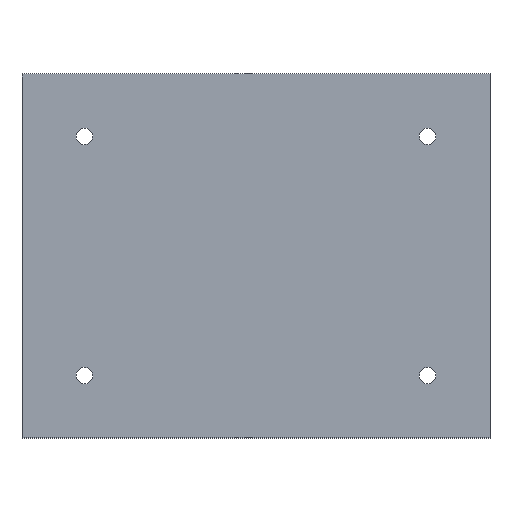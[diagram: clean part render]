
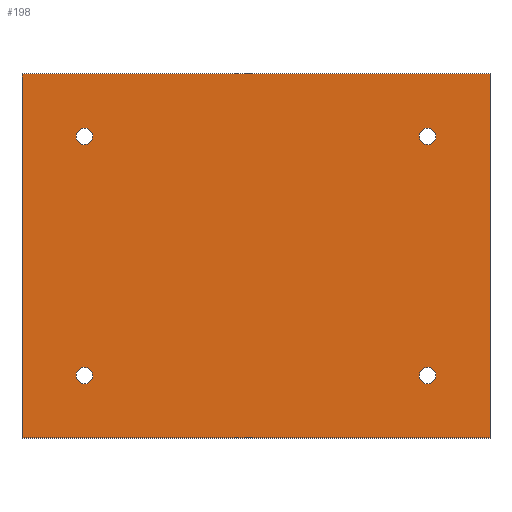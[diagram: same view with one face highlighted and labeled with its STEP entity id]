
A CAD part, top view. The second image highlights one B-rep face of the part: STEP entity #198.
In plain terms, the highlighted planar face has unit normal (0, 0, 1).
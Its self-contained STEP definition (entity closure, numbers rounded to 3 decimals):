
#42 = VERTEX_POINT('',#43);
#43 = CARTESIAN_POINT('',(90.,-70.,1.51));
#49 = EDGE_CURVE('',#42,#50,#52,.T.);
#50 = VERTEX_POINT('',#51);
#51 = CARTESIAN_POINT('',(0.,-70.,1.51));
#52 = LINE('',#53,#54);
#53 = CARTESIAN_POINT('',(90.,-70.,1.51));
#54 = VECTOR('',#55,1.);
#55 = DIRECTION('',(-1.,0.,0.));
#82 = VERTEX_POINT('',#83);
#83 = CARTESIAN_POINT('',(90.,0.,1.51));
#89 = EDGE_CURVE('',#82,#42,#90,.T.);
#90 = LINE('',#91,#92);
#91 = CARTESIAN_POINT('',(90.,0.,1.51));
#92 = VECTOR('',#93,1.);
#93 = DIRECTION('',(0.,-1.,0.));
#111 = EDGE_CURVE('',#50,#112,#114,.T.);
#112 = VERTEX_POINT('',#113);
#113 = CARTESIAN_POINT('',(0.,0.,1.51));
#114 = LINE('',#115,#116);
#115 = CARTESIAN_POINT('',(0.,-70.,1.51));
#116 = VECTOR('',#117,1.);
#117 = DIRECTION('',(0.,1.,0.));
#198 = ADVANCED_FACE('',(#199,#210,#221,#232,#243),#254,.T.);
#199 = FACE_BOUND('',#200,.T.);
#200 = EDGE_LOOP('',(#201,#202,#203,#209));
#201 = ORIENTED_EDGE('',*,*,#49,.F.);
#202 = ORIENTED_EDGE('',*,*,#89,.F.);
#203 = ORIENTED_EDGE('',*,*,#204,.F.);
#204 = EDGE_CURVE('',#112,#82,#205,.T.);
#205 = LINE('',#206,#207);
#206 = CARTESIAN_POINT('',(0.,0.,1.51));
#207 = VECTOR('',#208,1.);
#208 = DIRECTION('',(1.,0.,0.));
#209 = ORIENTED_EDGE('',*,*,#111,.F.);
#210 = FACE_BOUND('',#211,.T.);
#211 = EDGE_LOOP('',(#212));
#212 = ORIENTED_EDGE('',*,*,#213,.T.);
#213 = EDGE_CURVE('',#214,#214,#216,.T.);
#214 = VERTEX_POINT('',#215);
#215 = CARTESIAN_POINT('',(12.,-59.6,1.51));
#216 = CIRCLE('',#217,1.6);
#217 = AXIS2_PLACEMENT_3D('',#218,#219,#220);
#218 = CARTESIAN_POINT('',(12.,-58.,1.51));
#219 = DIRECTION('',(-0.,0.,-1.));
#220 = DIRECTION('',(-0.,-1.,0.));
#221 = FACE_BOUND('',#222,.T.);
#222 = EDGE_LOOP('',(#223));
#223 = ORIENTED_EDGE('',*,*,#224,.T.);
#224 = EDGE_CURVE('',#225,#225,#227,.T.);
#225 = VERTEX_POINT('',#226);
#226 = CARTESIAN_POINT('',(78.,-59.6,1.51));
#227 = CIRCLE('',#228,1.6);
#228 = AXIS2_PLACEMENT_3D('',#229,#230,#231);
#229 = CARTESIAN_POINT('',(78.,-58.,1.51));
#230 = DIRECTION('',(-0.,0.,-1.));
#231 = DIRECTION('',(-0.,-1.,0.));
#232 = FACE_BOUND('',#233,.T.);
#233 = EDGE_LOOP('',(#234));
#234 = ORIENTED_EDGE('',*,*,#235,.T.);
#235 = EDGE_CURVE('',#236,#236,#238,.T.);
#236 = VERTEX_POINT('',#237);
#237 = CARTESIAN_POINT('',(12.,-13.6,1.51));
#238 = CIRCLE('',#239,1.6);
#239 = AXIS2_PLACEMENT_3D('',#240,#241,#242);
#240 = CARTESIAN_POINT('',(12.,-12.,1.51));
#241 = DIRECTION('',(-0.,0.,-1.));
#242 = DIRECTION('',(-0.,-1.,0.));
#243 = FACE_BOUND('',#244,.T.);
#244 = EDGE_LOOP('',(#245));
#245 = ORIENTED_EDGE('',*,*,#246,.T.);
#246 = EDGE_CURVE('',#247,#247,#249,.T.);
#247 = VERTEX_POINT('',#248);
#248 = CARTESIAN_POINT('',(78.,-13.6,1.51));
#249 = CIRCLE('',#250,1.6);
#250 = AXIS2_PLACEMENT_3D('',#251,#252,#253);
#251 = CARTESIAN_POINT('',(78.,-12.,1.51));
#252 = DIRECTION('',(-0.,0.,-1.));
#253 = DIRECTION('',(-0.,-1.,0.));
#254 = PLANE('',#255);
#255 = AXIS2_PLACEMENT_3D('',#256,#257,#258);
#256 = CARTESIAN_POINT('',(0.,0.,1.51));
#257 = DIRECTION('',(0.,0.,1.));
#258 = DIRECTION('',(1.,0.,-0.));
